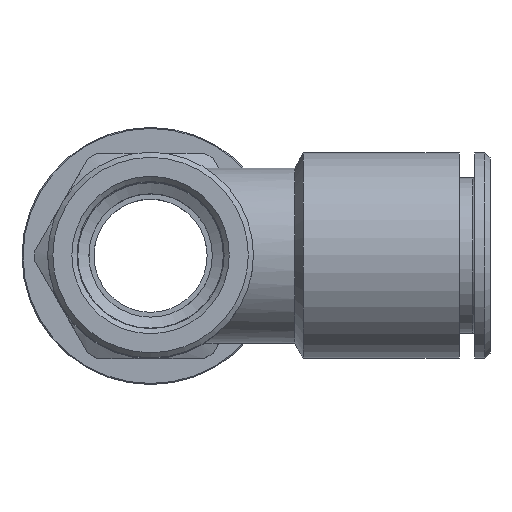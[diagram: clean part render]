
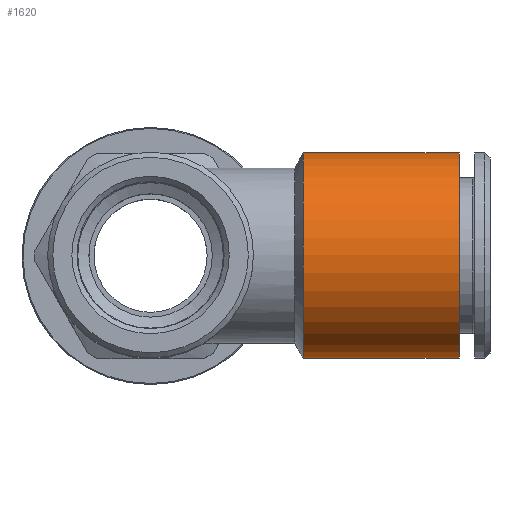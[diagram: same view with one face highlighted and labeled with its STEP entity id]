
A CAD part, top view. The second image highlights one B-rep face of the part: STEP entity #1620.
In plain terms, the highlighted cylindrical face has radius 10 mm (diameter 20 mm), a full revolution.
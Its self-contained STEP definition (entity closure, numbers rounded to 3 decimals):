
#1620=ADVANCED_FACE('', (#1630,#1640), #1650, .T.);
#6830=AXIS2_PLACEMENT_3D('Ax2Pl3d', #6840, #6850, #6860);
#8430=AXIS2_PLACEMENT_3D('Ax2Pl3d', #8440, #8450, #8460);
#8470=AXIS2_PLACEMENT_3D('Ax2Pl3d', #8480, #8490, #8500);
#6840=CARTESIAN_POINT('HicPkt', (54.902,24.617,34.721));
#24160=CARTESIAN_POINT('', (54.902,24.617,24.721));
#8440=CARTESIAN_POINT('HicPkt', (39.768,24.617,
34.721));
#24380=CARTESIAN_POINT('', (39.768,24.617,24.721));
#8480=CARTESIAN_POINT('HicPkt', (54.902,24.617,
34.721));
#25770=CIRCLE('Circle', #6830, 10.);
#25950=CIRCLE('Circle', #8430, 10.);
#1650=CYLINDRICAL_SURFACE('Zyl', #8470, 10.);
#6850=DIRECTION('Axis', (-1.,0.,0.))
;
#6860=DIRECTION('RefDirection', (0.,
0.,-1.));
#8450=DIRECTION('Axis', (-1.,0.,0.)
);
#8460=DIRECTION('RefDirection', (0.,
0.,-1.));
#8490=DIRECTION('Axis', (-1.,0.,0.))
;
#8500=DIRECTION('RefDirection', (0.,
0.,-1.));
#32600=EDGE_CURVE('', #32610, #32610, #25770, .T.);
#33120=EDGE_CURVE('', #33130, #33130, #25950, .T.);
#37160=EDGE_LOOP('Edge_loop', (#37170));
#37180=EDGE_LOOP('Edge_loop', (#37190));
#1640=FACE_BOUND('', #37180, .T.);
#1630=FACE_OUTER_BOUND('Face_outer_bound', #37160, .T.);
#37170=ORIENTED_EDGE('', *, *, #33120, .F.);
#37190=ORIENTED_EDGE('', *, *, #32600, .T.);
#32610=VERTEX_POINT('', #24160);
#33130=VERTEX_POINT('', #24380);
